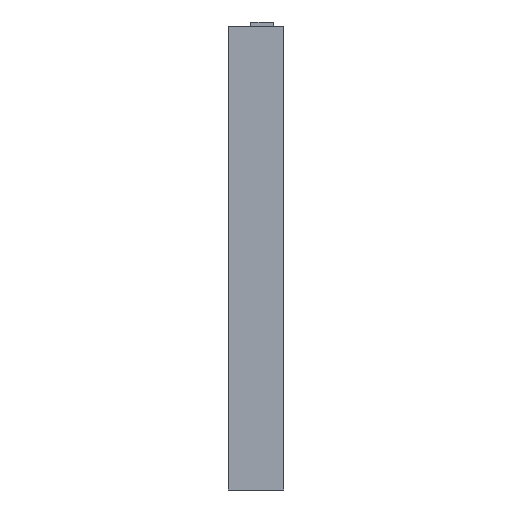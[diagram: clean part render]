
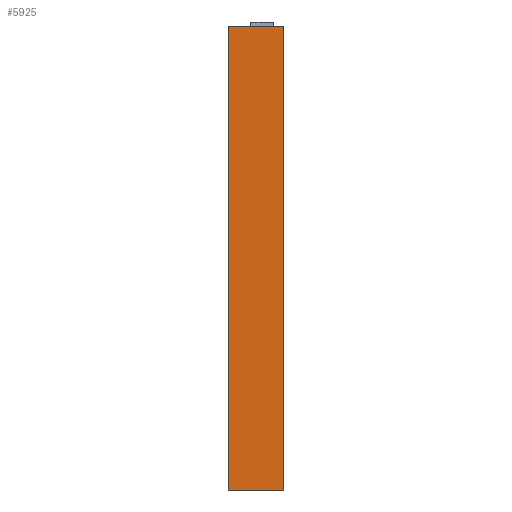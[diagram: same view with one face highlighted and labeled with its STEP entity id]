
A CAD part, left-side view. The second image highlights one B-rep face of the part: STEP entity #5925.
In plain terms, the highlighted planar face has unit normal (-1, 0, 0).
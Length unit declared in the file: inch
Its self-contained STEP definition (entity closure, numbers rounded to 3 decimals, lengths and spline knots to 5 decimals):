
#285 = AXIS2_PLACEMENT_3D ( 'NONE', #330, #329, #328 ) ;
#286 = PLANE ( 'NONE',  #285 ) ;
#287 = FACE_OUTER_BOUND ( 'NONE', #5926, .T. ) ;
#314 = DIRECTION ( 'NONE',  ( 0., -1., 0. ) ) ;
#315 = VECTOR ( 'NONE', #314, 39.37008 ) ;
#316 = CARTESIAN_POINT ( 'NONE',  ( -6.61746, 1.2225, -5.11746 ) ) ;
#317 = LINE ( 'NONE', #316, #315 ) ;
#318 = CARTESIAN_POINT ( 'NONE',  ( -6.61746, 1.2225, -5.11746 ) ) ;
#319 = DIRECTION ( 'NONE',  ( 0., 0., -1. ) ) ;
#320 = VECTOR ( 'NONE', #319, 39.37008 ) ;
#321 = CARTESIAN_POINT ( 'NONE',  ( -6.61746, 1.2225, 5.11746 ) ) ;
#322 = LINE ( 'NONE', #321, #320 ) ;
#323 = CARTESIAN_POINT ( 'NONE',  ( -6.61746, 0., -5.11746 ) ) ;
#324 = DIRECTION ( 'NONE',  ( 0., 0., -1. ) ) ;
#325 = VECTOR ( 'NONE', #324, 39.37008 ) ;
#326 = CARTESIAN_POINT ( 'NONE',  ( -6.61746, 0., 5.11746 ) ) ;
#327 = LINE ( 'NONE', #326, #325 ) ;
#328 = DIRECTION ( 'NONE',  ( 0., 0., 1. ) ) ;
#329 = DIRECTION ( 'NONE',  ( -1., 0., 0. ) ) ;
#330 = CARTESIAN_POINT ( 'NONE',  ( -6.61746, 1.2225, 5.11746 ) ) ;
#534 = DIRECTION ( 'NONE',  ( 0., -1., 0. ) ) ;
#535 = VECTOR ( 'NONE', #534, 39.37008 ) ;
#536 = CARTESIAN_POINT ( 'NONE',  ( -6.61746, 1.2225, 5.11746 ) ) ;
#537 = LINE ( 'NONE', #536, #535 ) ;
#538 = CARTESIAN_POINT ( 'NONE',  ( -6.61746, 1.2225, 5.11746 ) ) ;
#548 = CARTESIAN_POINT ( 'NONE',  ( -6.61746, 0., 5.11746 ) ) ;
#5925 = ADVANCED_FACE ( 'NONE', ( #287 ), #286, .T. ) ;
#5926 = EDGE_LOOP ( 'NONE', ( #5927, #5930, #5931, #5934 ) ) ;
#5927 = ORIENTED_EDGE ( 'NONE', *, *, #5928, .F. ) ;
#5928 = EDGE_CURVE ( 'NONE', #6030, #5929, #327, .T. ) ;
#5929 = VERTEX_POINT ( 'NONE', #323 ) ;
#5930 = ORIENTED_EDGE ( 'NONE', *, *, #6038, .F. ) ;
#5931 = ORIENTED_EDGE ( 'NONE', *, *, #5932, .T. ) ;
#5932 = EDGE_CURVE ( 'NONE', #6036, #5933, #322, .T. ) ;
#5933 = VERTEX_POINT ( 'NONE', #318 ) ;
#5934 = ORIENTED_EDGE ( 'NONE', *, *, #5935, .T. ) ;
#5935 = EDGE_CURVE ( 'NONE', #5933, #5929, #317, .T. ) ;
#6030 = VERTEX_POINT ( 'NONE', #548 ) ;
#6036 = VERTEX_POINT ( 'NONE', #538 ) ;
#6038 = EDGE_CURVE ( 'NONE', #6036, #6030, #537, .T. ) ;
